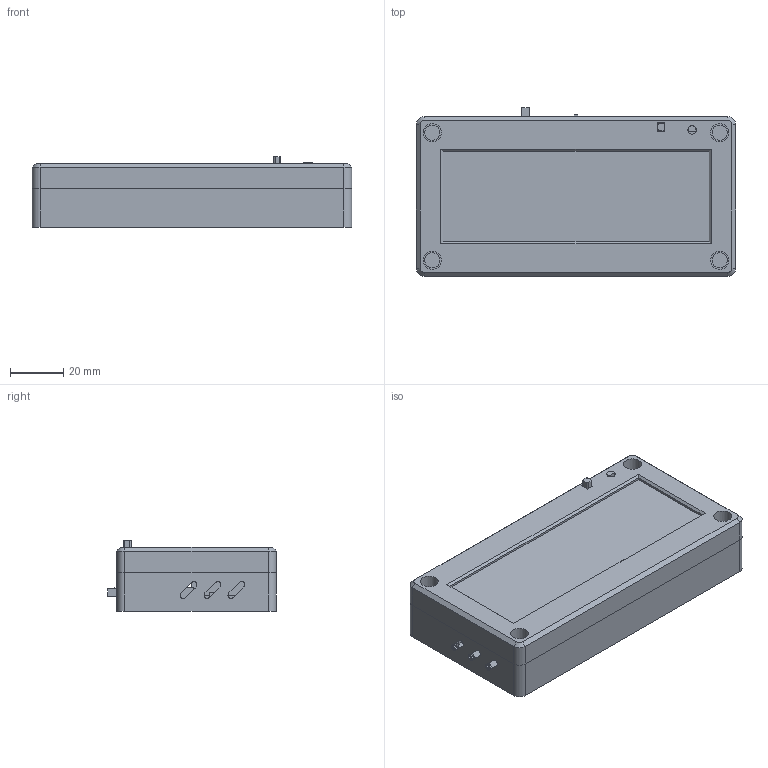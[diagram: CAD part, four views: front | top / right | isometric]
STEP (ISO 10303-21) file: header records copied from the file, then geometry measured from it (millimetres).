
FILE_DESCRIPTION(/* description */ (''),/* implementation_level */ '2;1');
FILE_NAME(/* name */ 'little-on-air-v213-assembly.step',/* time_stamp */ '2026-09-13T17:17:26-07:00',/* author */ (''),/* organization */ (''),/* preprocessor_version */ 'ST-DEVELOPER v20.2',/* originating_system */ 'Autodesk Translation Framework v15.15.0.0',/* authorisation */ '');
FILE_SCHEMA (('AUTOMOTIVE_DESIGN { 1 0 10303 214 3 1 1 }'));
Length unit declared in the file: centimetre
Products named in the file (24): (Unsaved); 01 Front optical bezel; 02 Clear acrylic; 03 Registered graphic backing; 04 Optical retainer; REF Four LEDs; REF Charger; REF SPDT power switch; REF SPDT moving lever; REF DPDT; REF DPDT moving actuator; REF XIAO; 05 Rear electronics housing; 06 Electronics retaining yoke; 07 Front guided reset button; REF Battery; REF Capacitor; REF M3 screws; REF M3 nuts; 09 Upper charger light guide; 10 Lower charger light guide; 08 Front RGB light guide; REF Guide keeper hardware; 11 Rear light guide keeper
Assembly tree (23 placements, depth 2):
  (Unsaved)
    01 Front optical bezel
    02 Clear acrylic
    03 Registered graphic backing
    04 Optical retainer
    REF Four LEDs
    REF Charger
    REF SPDT power switch
    REF SPDT moving lever
    REF DPDT
    REF DPDT moving actuator
    REF XIAO
    05 Rear electronics housing
    06 Electronics retaining yoke
    07 Front guided reset button
    REF Battery
    REF Capacitor
    REF M3 screws
    REF M3 nuts
    09 Upper charger light guide
    10 Lower charger light guide
    08 Front RGB light guide
    REF Guide keeper hardware
    11 Rear light guide keeper
Bounding box: 120 x 63.4 x 26.5 mm (x, y, z)
Volume: 87269.1 mm3; surface area: 81333.4 mm2
Topology: 64 solids, 64 shells, 1789 faces, 4771 edges, 3173 vertices
Faces by surface type: plane 1672, cylinder 113, cone 4
Full cylindrical faces by diameter (mm): 3 x9, 3.01 x8, 3.2 x4, 3.6 x27, 5.7 x9, 6 x1, 6.8 x4, 8 x1
Entity records: 55636 total; most frequent: CARTESIAN_POINT 9780, ORIENTED_EDGE 9542, DIRECTION 8689, EDGE_CURVE 4771, LINE 4525, VECTOR 4525, VERTEX_POINT 3173, AXIS2_PLACEMENT_3D 2082
